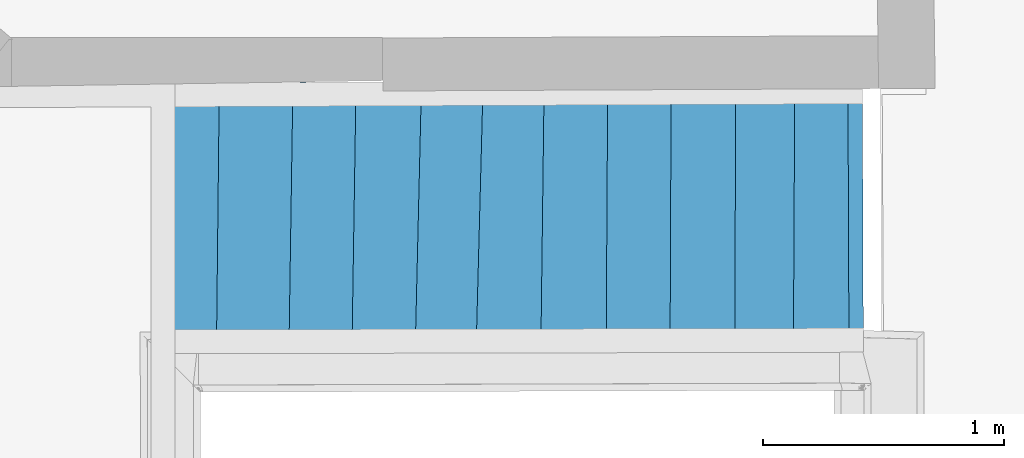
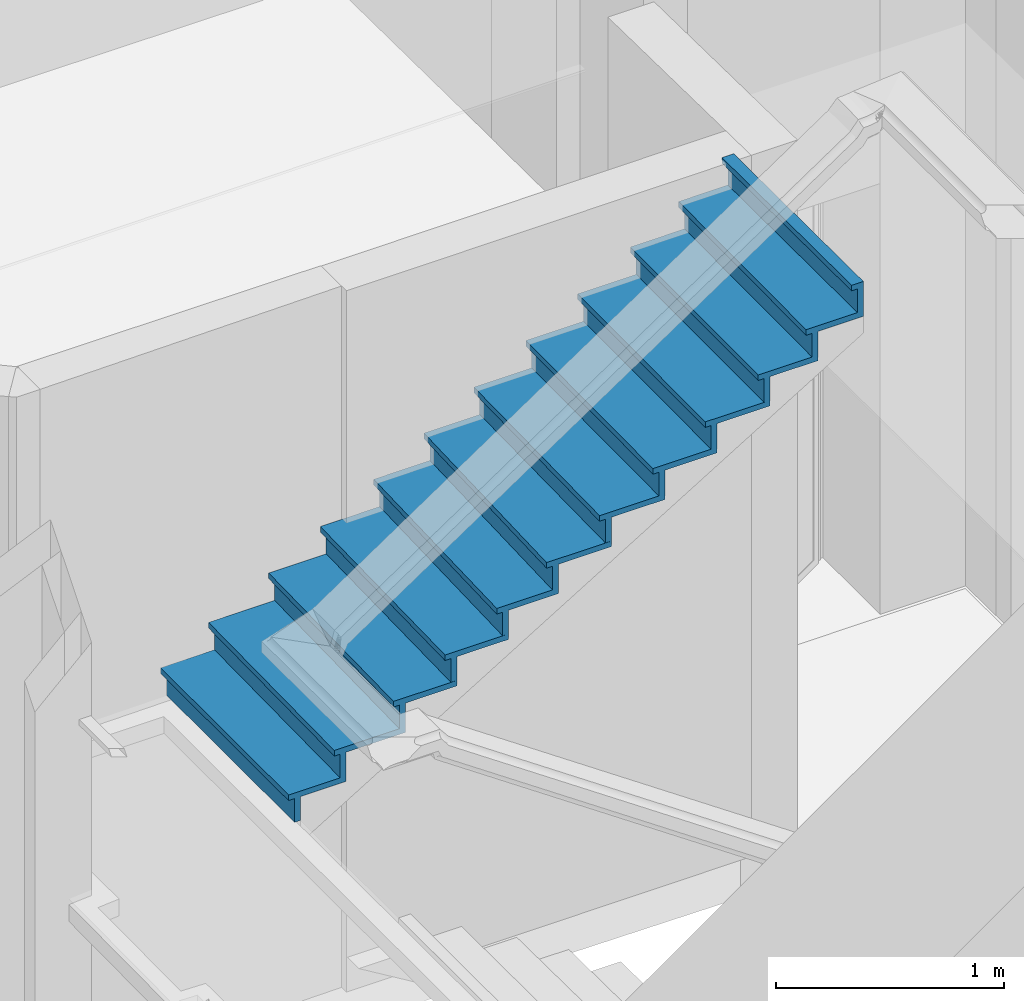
# One storey, part 51 of 66: 1 stair flight, 1 element without a shape of its own.
"""IFC2X3 building model written with IfcOpenShell, lengths in centimetres."""

from ifc_helpers import new_model, entity, si_unit, converted_unit, direction, frame, origin, origin_with_axes, place, context, subcontext, project, spatial, faceted_brep, material, material_list, element, aggregate, save


model = new_model("IFC2X3")

# Units and contexts
model_context = context("Model", 3, precision=0.0001, world=origin(), true_north=direction((0.225632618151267, 0.974212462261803, 0.0)))
body_context = subcontext(model_context, "Body", "Model", "MODEL_VIEW")
ifc_project = project(units=[si_unit("LENGTHUNIT", "METRE", prefix="CENTI"), si_unit("AREAUNIT", "SQUARE_METRE", prefix="CENTI"), si_unit("VOLUMEUNIT", "CUBIC_METRE", prefix="CENTI"), converted_unit("PLANEANGLEUNIT", "DEGREE", entity("IfcRatioMeasure", 0.0174532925), si_unit("PLANEANGLEUNIT", "RADIAN"), dimensions=[0, 0, 0, 0, 0, 0, 0])], contexts=[model_context])

# Site, building, storey
site_placement = place(None, origin_with_axes())
site = spatial("IfcSite", under=ifc_project, at=site_placement, Name="Default Site", CompositionType="ELEMENT")
building_placement = place(site_placement, origin_with_axes())
building = spatial("IfcBuilding", under=site, at=building_placement, Name="Default Building", CompositionType="ELEMENT")
storey_placement = place(building_placement, frame((0.0, 0.0, 477.795358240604), z_axis=(0.0, 0.0, 1.0), x_axis=(1.0, 0.0, 0.0)))
storey = spatial("IfcBuildingStorey", under=building, at=storey_placement, Name="Niveau 1", CompositionType="ELEMENT", Elevation=477.795358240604)

# Stair, stair flight
stair_placement = place(storey_placement, frame((-908.00257609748, -228.551642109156, 0.0), z_axis=(0.0, 0.0, 1.0), x_axis=(1.0, 0.0, 0.0)))
stair = element("IfcStair", 1, at=stair_placement, inside=storey, Name="Escalier 133769", ShapeType="NOTDEFINED")
ifc_material_1 = material(Name="Noyer 01")
ifc_material_2 = material(Name="Épicéa")
ifc_material_list = material_list([ifc_material_1, ifc_material_2])
stair_flight_placement = place(stair_placement, frame((-286.250105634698, 252.673978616, 201.269630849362), z_axis=(0.0, 0.0, 1.0), x_axis=(1.0, 0.0, 0.0)))
stair_flight = element("IfcStairFlight", 2, at=stair_flight_placement, material=ifc_material_list, Name="4294967274", context=body_context, shape_type="Brep", body=[
    faceted_brep([(-3.00006866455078, 0.0, -12.7130508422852), (0.0, 0.0, -12.7130508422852), (0.0, -112.518689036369, -12.7130508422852), (-3.00006866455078, -112.518689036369, -12.7130508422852), (0.0, 0.0, 0.0), (-3.00006866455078, 0.0, 0.0), (-3.00006866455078, -112.518689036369, 0.0), (0.0, -112.518689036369, 0.0)], [[[0, 1, 2]], [[2, 3, 0]], [[4, 5, 6]], [[6, 7, 4]], [[5, 0, 3]], [[3, 6, 5]], [[4, 1, 0]], [[0, 5, 4]], [[7, 2, 1]], [[1, 4, 7]], [[6, 3, 2]], [[2, 7, 6]]]),
    faceted_brep([(21.4109420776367, 0.140038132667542, 2.99997329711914), (24.4107246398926, 0.107383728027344, 2.99997329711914), (23.1853485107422, -112.46677339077, 2.99997329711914), (20.1854705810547, -112.434116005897, 2.99997329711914), (24.4107246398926, 0.107383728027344, 15.7130241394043), (21.4109420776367, 0.140038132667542, 15.7130241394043), (20.1854705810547, -112.434116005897, 15.7130241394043), (23.1853485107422, -112.46677339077, 15.7130241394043), (20.1854706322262, -112.434116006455, 2.99997329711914), (21.4109420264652, 0.140038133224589, 15.7130241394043), (21.4109420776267, 0.140038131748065, 2.99997329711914), (24.4107246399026, 0.10738372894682, 15.7130241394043), (24.4107246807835, 0.107383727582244, 2.99997329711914), (23.1853484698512, -112.466773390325, 15.7130241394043), (23.185348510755, -112.466773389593, 2.99997329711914), (20.1854705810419, -112.434116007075, 15.7130241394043)], [[[0, 1, 2]], [[2, 3, 0]], [[4, 5, 6]], [[6, 7, 4]], [[5, 0, 8]], [[3, 6, 9]], [[4, 1, 10]], [[0, 5, 11]], [[7, 2, 12]], [[1, 4, 13]], [[6, 3, 14]], [[2, 7, 15]]]),
    faceted_brep([(51.9889831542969, 0.28713047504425, 18.7130451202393), (54.9886703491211, 0.241896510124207, 18.7130451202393), (53.2899856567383, -112.399360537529, 18.7130451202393), (50.2903938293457, -112.354126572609, 18.7130451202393), (54.9886703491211, 0.241896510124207, 31.4260959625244), (51.9889831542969, 0.28713047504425, 31.4260959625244), (50.2903938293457, -112.354126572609, 31.4260959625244), (53.2899856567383, -112.399360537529, 31.4260959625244), (50.2903938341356, -112.354126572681, 18.7130451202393), (51.9889831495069, 0.287130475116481, 31.4260959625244), (51.9889831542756, 0.287130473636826, 18.7130451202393), (54.9886703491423, 0.241896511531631, 31.4260959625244), (54.9886703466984, 0.241896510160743, 18.7130451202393), (53.289985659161, -112.399360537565, 31.4260959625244), (53.289985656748, -112.399360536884, 18.7130451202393), (50.290393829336, -112.354126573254, 31.4260959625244)], [[[0, 1, 2]], [[2, 3, 0]], [[4, 5, 6]], [[6, 7, 4]], [[5, 0, 8]], [[3, 6, 9]], [[4, 1, 10]], [[0, 5, 11]], [[7, 2, 12]], [[1, 4, 13]], [[6, 3, 14]], [[2, 7, 15]]]),
    faceted_brep([(78.2055854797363, 0.403586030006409, 34.4261169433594), (81.2051773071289, 0.35722404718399, 34.4261169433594), (79.4633865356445, -112.340757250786, 34.4261169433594), (76.4636993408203, -112.294390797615, 34.4261169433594), (81.2051773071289, 0.35722404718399, 47.1391201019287), (78.2055854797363, 0.403586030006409, 47.1391201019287), (76.4636993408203, -112.294390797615, 47.1391201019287), (79.4633865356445, -112.340757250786, 47.1391201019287), (76.4636993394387, -112.294390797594, 34.4261169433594), (78.205585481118, 0.403586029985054, 47.1391201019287), (78.2055854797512, 0.403586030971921, 34.4261169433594), (81.205177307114, 0.357224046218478, 47.1391201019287), (81.2051772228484, 0.357224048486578, 34.4261169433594), (79.463386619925, -112.340757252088, 47.1391201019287), (79.4633865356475, -112.34075725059, 34.4261169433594), (76.4636993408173, -112.29439079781, 47.1391201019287)], [[[0, 1, 2]], [[2, 3, 0]], [[4, 5, 6]], [[6, 7, 4]], [[5, 0, 8]], [[3, 6, 9]], [[4, 1, 10]], [[0, 5, 11]], [[7, 2, 12]], [[1, 4, 13]], [[6, 3, 14]], [[2, 7, 15]]]),
    faceted_brep([(105.400371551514, 0.547805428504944, 50.1391410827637), (108.399486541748, 0.476853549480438, 50.1391410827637), (105.731964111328, -112.281933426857, 50.1391410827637), (102.732753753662, -112.210986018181, 50.1391410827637), (108.399486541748, 0.476853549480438, 62.8521919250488), (105.400371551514, 0.547805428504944, 62.8521919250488), (102.732753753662, -112.210986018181, 62.8521919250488), (105.731964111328, -112.281933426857, 62.8521919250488), (102.732753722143, -112.210986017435, 50.1391410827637), (105.400371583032, 0.54780542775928, 62.8521919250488), (105.400371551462, 0.547805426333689, 50.1391410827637), (108.399486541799, 0.476853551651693, 62.8521919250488), (108.399486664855, 0.476853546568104, 50.1391410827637), (105.731963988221, -112.281933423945, 62.8521919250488), (105.731964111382, -112.281933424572, 50.1391410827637), (102.732753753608, -112.210986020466, 62.8521919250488)], [[[0, 1, 2]], [[2, 3, 0]], [[4, 5, 6]], [[6, 7, 4]], [[5, 0, 8]], [[3, 6, 9]], [[4, 1, 10]], [[0, 5, 11]], [[7, 2, 12]], [[1, 4, 13]], [[6, 3, 14]], [[2, 7, 15]]]),
    faceted_brep([(130.99250793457, 0.668194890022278, 65.8522129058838), (133.991527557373, 0.589433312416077, 65.8522129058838), (131.028652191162, -112.225291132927, 65.8522129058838), (128.029727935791, -112.146529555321, 65.8522129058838), (133.991527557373, 0.589433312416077, 78.5652160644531), (130.99250793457, 0.668194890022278, 78.5652160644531), (128.029727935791, -112.146529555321, 78.5652160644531), (131.028652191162, -112.225291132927, 78.5652160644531), (128.029727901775, -112.146529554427, 65.8522129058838), (130.992507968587, 0.668194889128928, 78.5652160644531), (130.99250793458, 0.668194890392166, 65.8522129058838), (133.991527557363, 0.589433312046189, 78.5652160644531), (133.991527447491, 0.58943331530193, 65.8522129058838), (131.028652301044, -112.225291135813, 78.5652160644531), (131.028652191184, -112.225291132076, 65.8522129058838), (128.029727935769, -112.146529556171, 78.5652160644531)], [[[0, 1, 2]], [[2, 3, 0]], [[4, 5, 6]], [[6, 7, 4]], [[5, 0, 8]], [[3, 6, 9]], [[4, 1, 10]], [[0, 5, 11]], [[7, 2, 12]], [[1, 4, 13]], [[6, 3, 14]], [[2, 7, 15]]]),
    faceted_brep([(156.341075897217, 0.738313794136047, 81.5652370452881), (159.340858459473, 0.700946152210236, 81.5652370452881), (157.934951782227, -112.165042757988, 81.5652370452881), (154.935169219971, -112.127676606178, 81.5652370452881), (159.340858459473, 0.700946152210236, 94.2782878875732), (156.341075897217, 0.738313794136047, 94.2782878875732), (154.935169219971, -112.127676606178, 94.2782878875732), (157.934951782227, -112.165042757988, 94.2782878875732), (154.935169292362, -112.12767660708, 81.5652370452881), (156.341075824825, 0.73831379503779, 94.2782878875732), (156.341075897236, 0.738313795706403, 81.5652370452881), (159.340858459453, 0.70094615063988, 94.2782878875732), (159.340858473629, 0.700946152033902, 81.5652370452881), (157.93495176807, -112.165042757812, 94.2782878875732), (157.934951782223, -112.165042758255, 81.5652370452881), (154.935169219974, -112.127676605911, 94.2782878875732)], [[[0, 1, 2]], [[2, 3, 0]], [[4, 5, 6]], [[6, 7, 4]], [[5, 0, 8]], [[3, 6, 9]], [[4, 1, 10]], [[0, 5, 11]], [[7, 2, 12]], [[1, 4, 13]], [[6, 3, 14]], [[2, 7, 15]]]),
    faceted_brep([(182.734489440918, 0.834919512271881, 97.2783088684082), (185.734367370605, 0.817053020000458, 97.2783088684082), (185.061931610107, -112.104299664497, 97.2783088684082), (182.061958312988, -112.086436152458, 97.2783088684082), (185.734367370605, 0.817053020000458, 109.991312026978), (182.734489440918, 0.834919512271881, 109.991312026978), (182.061958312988, -112.086436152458, 109.991312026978), (185.061931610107, -112.104299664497, 109.991312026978), (182.061958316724, -112.08643615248, 97.2783088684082), (182.734489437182, 0.834919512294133, 109.991312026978), (182.734489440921, 0.834919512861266, 97.2783088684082), (185.734367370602, 0.817053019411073, 109.991312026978), (185.734367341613, 0.817053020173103, 97.2783088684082), (185.0619316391, -112.10429966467, 109.991312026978), (185.061931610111, -112.104299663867, 97.2783088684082), (182.061958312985, -112.086436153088, 109.991312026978)], [[[0, 1, 2]], [[2, 3, 0]], [[4, 5, 6]], [[6, 7, 4]], [[5, 0, 8]], [[3, 6, 9]], [[4, 1, 10]], [[0, 5, 11]], [[7, 2, 12]], [[1, 4, 13]], [[6, 3, 14]], [[2, 7, 15]]]),
    faceted_brep([(209.081840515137, 0.945234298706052, 112.991333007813), (212.081813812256, 0.932955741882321, 112.991333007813), (211.619472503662, -112.044832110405, 112.991333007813), (208.619499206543, -112.032553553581, 112.991333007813), (212.081813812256, 0.932955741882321, 125.704336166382), (209.081840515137, 0.945234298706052, 125.704336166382), (208.619499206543, -112.032553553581, 125.704336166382), (211.619472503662, -112.044832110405, 125.704336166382), (208.619499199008, -112.03255355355, 112.991333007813), (209.081840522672, 0.945234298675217, 125.704336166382), (209.081840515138, 0.945234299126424, 112.991333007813), (212.081813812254, 0.93295574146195, 125.704336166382), (212.081813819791, 0.932955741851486, 112.991333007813), (211.619472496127, -112.044832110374, 125.704336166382), (211.61947250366, -112.044832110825, 112.991333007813), (208.619499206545, -112.032553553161, 125.704336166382)], [[[0, 1, 2]], [[2, 3, 0]], [[4, 5, 6]], [[6, 7, 4]], [[5, 0, 8]], [[3, 6, 9]], [[4, 1, 10]], [[0, 5, 11]], [[7, 2, 12]], [[1, 4, 13]], [[6, 3, 14]], [[2, 7, 15]]]),
    faceted_brep([(235.905361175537, 1.06213688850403, 128.704404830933), (238.905334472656, 1.05095505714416, 128.704404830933), (238.484001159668, -111.984679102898, 128.704404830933), (235.484027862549, -111.973497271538, 128.704404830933), (238.905334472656, 1.05095505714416, 141.417455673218), (235.905361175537, 1.06213688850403, 141.417455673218), (235.484027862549, -111.973497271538, 141.417455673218), (238.484001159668, -111.984679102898, 141.417455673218), (235.484027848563, -111.973497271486, 128.704404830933), (235.905361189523, 1.06213688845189, 141.417455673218), (235.905361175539, 1.06213688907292, 128.704404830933), (238.905334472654, 1.05095505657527, 141.417455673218), (238.905334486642, 1.05095505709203, 128.704404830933), (238.484001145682, -111.984679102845, 141.417455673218), (238.484001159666, -111.984679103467, 128.704404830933), (235.484027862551, -111.973497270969, 141.417455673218)], [[[0, 1, 2]], [[2, 3, 0]], [[4, 5, 6]], [[6, 7, 4]], [[5, 0, 8]], [[3, 6, 9]], [[4, 1, 10]], [[0, 5, 11]], [[7, 2, 12]], [[1, 4, 13]], [[6, 3, 14]], [[2, 7, 15]]]),
    faceted_brep([(260.429763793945, 1.17430388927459, 144.417428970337), (263.429737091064, 1.15883648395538, 144.417428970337), (262.846660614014, -111.930122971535, 144.417428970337), (259.846687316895, -111.914655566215, 144.417428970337), (263.429737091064, 1.15883648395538, 157.130479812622), (260.429763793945, 1.17430388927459, 157.130479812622), (259.846687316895, -111.914655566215, 157.130479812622), (262.846660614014, -111.930122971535, 157.130479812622), (259.846687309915, -111.91465556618, 144.417428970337), (260.429763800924, 1.17430388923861, 157.130479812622), (260.429763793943, 1.17430388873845, 144.417428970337), (263.429737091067, 1.15883648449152, 157.130479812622), (263.429737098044, 1.1588364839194, 144.417428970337), (262.846660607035, -111.930122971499, 157.130479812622), (262.846660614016, -111.930122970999, 144.417428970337), (259.846687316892, -111.914655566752, 157.130479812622)], [[[0, 1, 2]], [[2, 3, 0]], [[4, 5, 6]], [[6, 7, 4]], [[5, 0, 8]], [[3, 6, 9]], [[4, 1, 10]], [[0, 5, 11]], [[7, 2, 12]], [[1, 4, 13]], [[6, 3, 14]], [[2, 7, 15]]]),
    faceted_brep([(282.502269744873, 1.24419033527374, 160.130453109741), (285.502243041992, 1.25593543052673, 160.130453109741), (285.945224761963, -111.878404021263, 160.130453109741), (282.945251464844, -111.890146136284, 160.130453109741), (285.502243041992, 1.25593543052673, 172.843503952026), (282.502269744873, 1.24419033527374, 172.843503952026), (282.945251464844, -111.890146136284, 172.843503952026), (285.945224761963, -111.878404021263, 172.843503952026), (282.945251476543, -111.890146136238, 160.130453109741), (282.502269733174, 1.24419033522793, 172.843503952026), (282.502269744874, 1.24419033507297, 160.130453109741), (285.502243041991, 1.2559354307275, 172.843503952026), (285.502243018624, 1.25593543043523, 160.130453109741), (285.945224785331, -111.878404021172, 172.843503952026), (285.94522476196, -111.878404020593, 160.130453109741), (282.945251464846, -111.890146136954, 172.843503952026)], [[[0, 1, 2]], [[2, 3, 0]], [[4, 5, 6]], [[6, 7, 4]], [[5, 0, 8]], [[3, 6, 9]], [[4, 1, 10]], [[0, 5, 11]], [[7, 2, 12]], [[1, 4, 13]], [[6, 3, 14]], [[2, 7, 15]]]),
    faceted_brep([(-6.00004196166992, -0.0263944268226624, 2.99997329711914), (-6.00004196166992, -112.532123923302, 2.99997329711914), (23.1853485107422, -112.46677339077, 2.99997329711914), (24.4107246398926, 0.107383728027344, 2.99997329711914), (23.1853485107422, -112.46677339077, 0.0), (-6.00004196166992, -112.532123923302, 0.0), (-6.00004196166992, -0.0263944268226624, 0.0), (24.4107246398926, 0.107383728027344, 0.0), (-6.0000419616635, -112.532123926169, 2.99997329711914), (23.1853485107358, -112.466773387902, 0.0), (23.1853484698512, -112.466773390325, 2.99997329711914), (24.4107246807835, 0.107383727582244, 0.0), (24.4107246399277, 0.107383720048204, 2.99997329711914), (-6.00004196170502, -0.0263944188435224, 0.0)], [[[0, 1, 2]], [[2, 3, 0]], [[4, 5, 6]], [[6, 7, 4]], [[5, 1, 0]], [[0, 6, 5]], [[4, 2, 8]], [[1, 5, 9]], [[7, 3, 10]], [[2, 4, 11]], [[6, 0, 12]], [[3, 7, 13]]]),
    faceted_brep([(18.4101104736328, 0.0809863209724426, 18.7130451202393), (17.1848297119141, -112.480208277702, 18.7130451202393), (53.2899856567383, -112.399360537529, 18.7130451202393), (54.9886703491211, 0.241896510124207, 18.7130451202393), (53.2899856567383, -112.399360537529, 15.7130241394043), (17.1848297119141, -112.480208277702, 15.7130241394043), (18.4101104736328, 0.0809863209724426, 15.7130241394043), (54.9886703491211, 0.241896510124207, 15.7130241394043), (18.4101104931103, 0.0809863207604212, 18.7130451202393), (17.1848296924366, -112.48020827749, 15.7130241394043), (17.1848297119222, -112.480208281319, 18.7130451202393), (53.2899856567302, -112.399360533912, 15.7130241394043), (53.289985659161, -112.399360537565, 18.7130451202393), (54.9886703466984, 0.241896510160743, 15.7130241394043), (54.9886703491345, 0.241896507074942, 18.7130451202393), (18.4101104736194, 0.0809863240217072, 15.7130241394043)], [[[0, 1, 2]], [[2, 3, 0]], [[4, 5, 6]], [[6, 7, 4]], [[5, 1, 8]], [[0, 6, 9]], [[4, 2, 10]], [[1, 5, 11]], [[7, 3, 12]], [[2, 4, 13]], [[6, 0, 14]], [[3, 7, 15]]]),
    faceted_brep([(48.9875793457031, 0.215497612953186, 34.4261169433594), (47.2891807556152, -112.412801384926, 34.4261169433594), (79.4633865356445, -112.340757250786, 34.4261169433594), (81.2051773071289, 0.35722404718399, 34.4261169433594), (79.4633865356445, -112.340757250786, 31.4260959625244), (47.2891807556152, -112.412801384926, 31.4260959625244), (48.9875793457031, 0.215497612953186, 31.4260959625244), (81.2051773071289, 0.35722404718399, 31.4260959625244), (48.9875792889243, 0.215497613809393, 34.4261169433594), (47.2891808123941, -112.412801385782, 31.4260959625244), (47.28918075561, -112.412801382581, 34.4261169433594), (79.4633865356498, -112.34075725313, 31.4260959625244), (79.463386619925, -112.340757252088, 34.4261169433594), (81.2051772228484, 0.357224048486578, 31.4260959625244), (81.2051773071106, 0.357224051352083, 34.4261169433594), (48.9875793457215, 0.215497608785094, 31.4260959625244)], [[[0, 1, 2]], [[2, 3, 0]], [[4, 5, 6]], [[6, 7, 4]], [[5, 1, 8]], [[0, 6, 9]], [[4, 2, 10]], [[1, 5, 11]], [[7, 3, 12]], [[2, 4, 13]], [[6, 0, 14]], [[3, 7, 15]]]),
    faceted_brep([(75.2040863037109, 0.33082515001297, 50.1391410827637), (73.4624862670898, -112.354192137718, 50.1391410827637), (105.731964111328, -112.281933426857, 50.1391410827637), (108.399486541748, 0.476853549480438, 50.1391410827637), (105.731964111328, -112.281933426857, 47.1391201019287), (73.4624862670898, -112.354192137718, 47.1391201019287), (75.2040863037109, 0.33082515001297, 47.1391201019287), (108.399486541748, 0.476853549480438, 47.1391201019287), (75.2040862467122, 0.330825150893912, 50.1391410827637), (73.4624863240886, -112.354192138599, 47.1391201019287), (73.4624862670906, -112.354192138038, 50.1391410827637), (105.731964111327, -112.281933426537, 47.1391201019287), (105.731963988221, -112.281933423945, 50.1391410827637), (108.399486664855, 0.476853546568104, 47.1391201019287), (108.399486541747, 0.476853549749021, 50.1391410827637), (75.2040863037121, 0.330825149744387, 47.1391201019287)], [[[0, 1, 2]], [[2, 3, 0]], [[4, 5, 6]], [[6, 7, 4]], [[5, 1, 8]], [[0, 6, 9]], [[4, 2, 10]], [[1, 5, 11]], [[7, 3, 12]], [[2, 4, 13]], [[6, 0, 14]], [[3, 7, 15]]]),
    faceted_brep([(102.397155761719, 0.45044869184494, 65.8522129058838), (99.7299194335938, -112.295374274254, 65.8522129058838), (131.028652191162, -112.225291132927, 65.8522129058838), (133.991527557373, 0.589433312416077, 65.8522129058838), (131.028652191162, -112.225291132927, 62.8521919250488), (99.7299194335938, -112.295374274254, 62.8521919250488), (102.397155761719, 0.45044869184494, 62.8521919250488), (133.991527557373, 0.589433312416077, 62.8521919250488), (102.397155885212, 0.450448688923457, 65.8522129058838), (99.7299193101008, -112.295374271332, 62.8521919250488), (99.7299194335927, -112.295374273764, 65.8522129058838), (131.028652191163, -112.225291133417, 62.8521919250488), (131.028652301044, -112.225291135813, 65.8522129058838), (133.991527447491, 0.58943331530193, 62.8521919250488), (133.991527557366, 0.589433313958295, 65.8522129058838), (102.397155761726, 0.450448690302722, 62.8521919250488)], [[[0, 1, 2]], [[2, 3, 0]], [[4, 5, 6]], [[6, 7, 4]], [[5, 1, 8]], [[0, 6, 9]], [[4, 2, 10]], [[1, 5, 11]], [[7, 3, 12]], [[2, 4, 13]], [[6, 0, 14]], [[3, 7, 15]]]),
    faceted_brep([(127.988719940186, 0.563026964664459, 81.5652370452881), (125.026226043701, -112.238731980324, 81.5652370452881), (157.934951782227, -112.165042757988, 81.5652370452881), (159.340858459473, 0.700946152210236, 81.5652370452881), (157.934951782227, -112.165042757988, 78.5652160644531), (125.026226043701, -112.238731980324, 78.5652160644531), (127.988719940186, 0.563026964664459, 78.5652160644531), (159.340858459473, 0.700946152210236, 78.5652160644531), (127.988720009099, 0.563026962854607, 81.5652370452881), (125.026225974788, -112.238731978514, 78.5652160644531), (125.026226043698, -112.238731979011, 81.5652370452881), (157.934951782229, -112.1650427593, 78.5652160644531), (157.93495176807, -112.165042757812, 81.5652370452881), (159.340858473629, 0.700946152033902, 78.5652160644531), (159.340858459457, 0.700946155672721, 81.5652370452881), (127.988719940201, 0.563026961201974, 78.5652160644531)], [[[0, 1, 2]], [[2, 3, 0]], [[4, 5, 6]], [[6, 7, 4]], [[5, 1, 8]], [[0, 6, 9]], [[4, 2, 10]], [[1, 5, 11]], [[7, 3, 12]], [[2, 4, 13]], [[6, 0, 14]], [[3, 7, 15]]]),
    faceted_brep([(153.34005355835, 0.674548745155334, 97.2783088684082), (151.934242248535, -112.17847764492, 97.2783088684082), (185.061931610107, -112.104299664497, 97.2783088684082), (185.734367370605, 0.817053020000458, 97.2783088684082), (185.061931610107, -112.104299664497, 94.2782878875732), (151.934242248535, -112.17847764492, 94.2782878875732), (153.34005355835, 0.674548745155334, 94.2782878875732), (185.734367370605, 0.817053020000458, 94.2782878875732), (153.340053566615, 0.674548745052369, 97.2783088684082), (151.934242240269, -112.178477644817, 94.2782878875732), (151.934242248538, -112.178477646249, 97.2783088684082), (185.061931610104, -112.104299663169, 94.2782878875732), (185.0619316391, -112.10429966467, 97.2783088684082), (185.734367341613, 0.817053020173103, 94.2782878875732), (185.734367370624, 0.81705301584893, 97.2783088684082), (153.340053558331, 0.674548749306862, 94.2782878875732)], [[[0, 1, 2]], [[2, 3, 0]], [[4, 5, 6]], [[6, 7, 4]], [[5, 1, 8]], [[0, 6, 9]], [[4, 2, 10]], [[1, 5, 11]], [[7, 3, 12]], [[2, 4, 13]], [[6, 0, 14]], [[3, 7, 15]]]),
    faceted_brep([(179.734134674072, 0.790657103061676, 112.991333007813), (179.061698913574, -112.11773455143, 112.991333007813), (211.619472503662, -112.044832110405, 112.991333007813), (212.081813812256, 0.932955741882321, 112.991333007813), (211.619472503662, -112.044832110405, 109.991312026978), (179.061698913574, -112.11773455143, 109.991312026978), (179.734134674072, 0.790657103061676, 109.991312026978), (212.081813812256, 0.932955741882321, 109.991312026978), (179.73413468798, 0.790657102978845, 112.991333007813), (179.061698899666, -112.117734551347, 109.991312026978), (179.061698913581, -112.117734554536, 112.991333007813), (211.619472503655, -112.044832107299, 109.991312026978), (211.619472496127, -112.044832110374, 112.991333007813), (212.081813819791, 0.932955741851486, 109.991312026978), (212.081813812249, 0.93295574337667, 112.991333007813), (179.734134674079, 0.790657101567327, 109.991312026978)], [[[0, 1, 2]], [[2, 3, 0]], [[4, 5, 6]], [[6, 7, 4]], [[5, 1, 8]], [[0, 6, 9]], [[4, 2, 10]], [[1, 5, 11]], [[7, 3, 12]], [[2, 4, 13]], [[6, 0, 14]], [[3, 7, 15]]]),
    faceted_brep([(206.081676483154, 0.90655982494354, 128.704404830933), (205.619335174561, -112.058266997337, 128.704404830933), (238.484001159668, -111.984679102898, 128.704404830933), (238.905334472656, 1.05095505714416, 128.704404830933), (238.484001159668, -111.984679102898, 125.704336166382), (205.619335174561, -112.058266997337, 125.704336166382), (206.081676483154, 0.90655982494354, 125.704336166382), (238.905334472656, 1.05095505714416, 125.704336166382), (206.081676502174, 0.906559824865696, 128.704404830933), (205.619335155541, -112.058266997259, 125.704336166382), (205.619335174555, -112.058266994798, 128.704404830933), (238.484001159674, -111.984679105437, 125.704336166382), (238.484001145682, -111.984679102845, 128.704404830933), (238.905334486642, 1.05095505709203, 125.704336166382), (238.905334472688, 1.05095504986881, 128.704404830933), (206.081676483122, 0.906559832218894, 125.704336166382)], [[[0, 1, 2]], [[2, 3, 0]], [[4, 5, 6]], [[6, 7, 4]], [[5, 1, 8]], [[0, 6, 9]], [[4, 2, 10]], [[1, 5, 11]], [[7, 3, 12]], [[2, 4, 13]], [[6, 0, 14]], [[3, 7, 15]]]),
    faceted_brep([(232.905197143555, 1.02455914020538, 144.417428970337), (232.483959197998, -111.99811398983, 144.417428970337), (262.846660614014, -111.930122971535, 144.417428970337), (263.429737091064, 1.15883648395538, 144.417428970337), (262.846660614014, -111.930122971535, 141.417455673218), (232.483959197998, -111.99811398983, 141.417455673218), (232.905197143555, 1.02455914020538, 141.417455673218), (263.429737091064, 1.15883648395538, 141.417455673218), (232.905197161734, 1.02455914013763, 144.417428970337), (232.483959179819, -111.998113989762, 141.417455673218), (232.483959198, -111.998113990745, 144.417428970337), (262.846660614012, -111.93012297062, 141.417455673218), (262.846660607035, -111.930122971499, 144.417428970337), (263.429737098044, 1.1588364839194, 141.417455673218), (263.429737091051, 1.15883648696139, 144.417428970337), (232.905197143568, 1.02455913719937, 141.417455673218)], [[[0, 1, 2]], [[2, 3, 0]], [[4, 5, 6]], [[6, 7, 4]], [[5, 1, 8]], [[0, 6, 9]], [[4, 2, 10]], [[1, 5, 11]], [[7, 3, 12]], [[2, 4, 13]], [[6, 0, 14]], [[3, 7, 15]]]),
    faceted_brep([(257.429504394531, 1.13244354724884, 160.130453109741), (256.846523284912, -111.943557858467, 160.130453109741), (285.945224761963, -111.878404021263, 160.130453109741), (285.502243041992, 1.25593543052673, 160.130453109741), (285.945224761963, -111.878404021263, 157.130479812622), (256.846523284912, -111.943557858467, 157.130479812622), (257.429504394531, 1.13244354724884, 157.130479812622), (285.502243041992, 1.25593543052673, 157.130479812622), (257.429504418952, 1.13244354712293, 160.130453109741), (256.846523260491, -111.943557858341, 157.130479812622), (256.846523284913, -111.943557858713, 160.130453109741), (285.945224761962, -111.878404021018, 157.130479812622), (285.945224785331, -111.878404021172, 160.130453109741), (285.502243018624, 1.25593543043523, 157.130479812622), (285.502243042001, 1.25593542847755, 160.130453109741), (257.429504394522, 1.13244354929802, 157.130479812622)], [[[0, 1, 2]], [[2, 3, 0]], [[4, 5, 6]], [[6, 7, 4]], [[5, 1, 8]], [[0, 6, 9]], [[4, 2, 10]], [[1, 5, 11]], [[7, 3, 12]], [[2, 4, 13]], [[6, 0, 14]], [[3, 7, 15]]]),
    faceted_brep([(279.945278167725, -111.901894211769, 175.843572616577), (285.945224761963, -111.878404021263, 175.843572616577), (285.502243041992, 1.25593543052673, 175.843572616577), (279.502296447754, 1.23244225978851, 175.843572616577), (285.945224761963, -111.878404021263, 172.843503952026), (279.945278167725, -111.901894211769, 172.843503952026), (279.502296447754, 1.23244225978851, 172.843503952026), (285.502243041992, 1.25593543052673, 172.843503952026), (279.502296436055, 1.2324422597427, 175.843572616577), (279.945278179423, -111.901894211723, 172.843503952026), (279.945278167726, -111.901894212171, 175.843572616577), (285.945224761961, -111.878404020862, 172.843503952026), (285.945224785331, -111.878404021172, 175.843572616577), (285.502243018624, 1.25593543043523, 172.843503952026), (285.502243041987, 1.25593543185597, 175.843572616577), (279.502296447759, 1.23244225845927, 172.843503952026)], [[[0, 1, 2]], [[2, 3, 0]], [[4, 5, 6]], [[6, 7, 4]], [[5, 0, 8]], [[3, 6, 9]], [[4, 1, 10]], [[0, 5, 11]], [[7, 2, 12]], [[1, 4, 13]], [[6, 3, 14]], [[2, 7, 15]]]),
])
aggregate(stair, [stair_flight])

save(model, "model.ifc")
